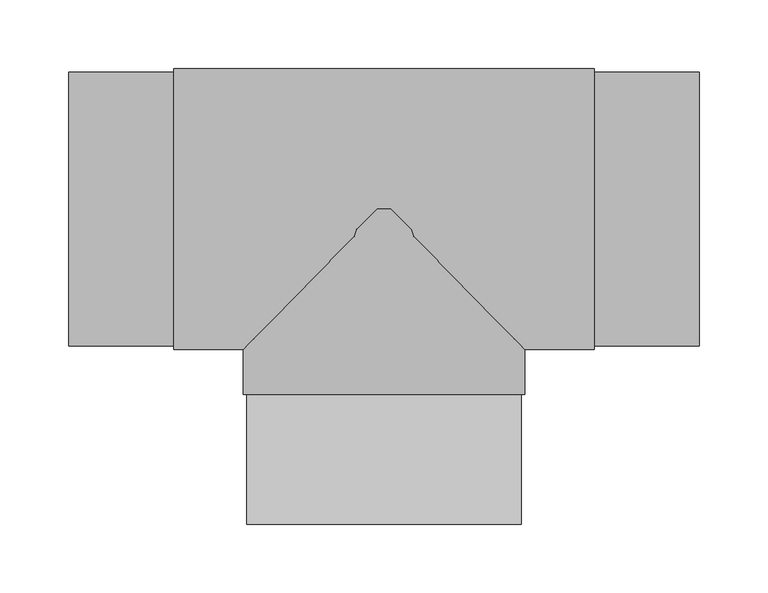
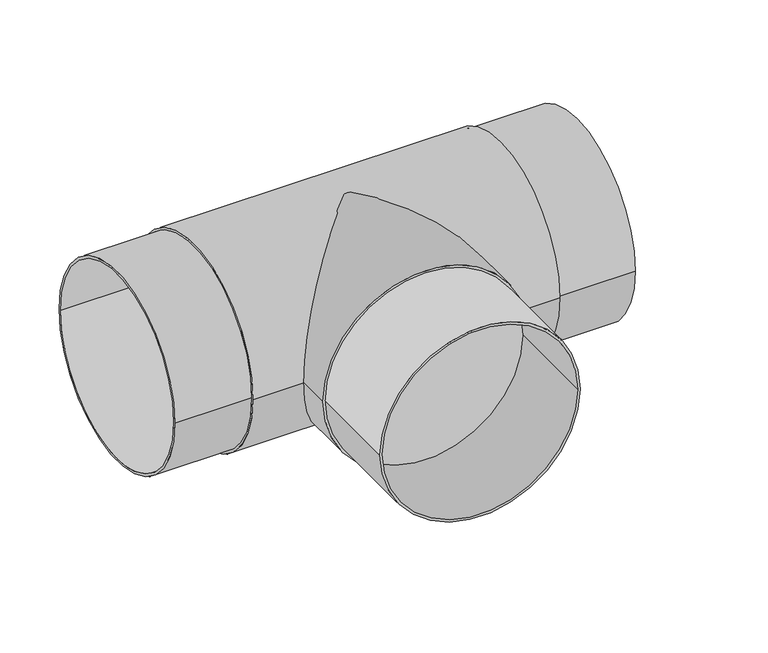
"""IFC4 building model written with IfcOpenShell, lengths in millimetres: pipe fitting geometry, EGB_VASEN_ PPR_Te a tope WXRB300_Te reducida a tope WXRB310 : Te a tope."""

from ifc_helpers import new_model, si_unit, point, frame, origin, origin_2d, place, context, project, spatial, circle_curve, trimmed, segment, composite_curve, outline, extrude, source, transform, mapped, element, save


def pipe_fitting_e492791f(model_context):
    return source(origin(), model_context, "Body", "SweptSolid", [
        extrude(outline(composite_curve([segment(trimmed(circle_curve(origin_2d(), 100.0), [point((0.0, 100.0))], [point((0.0, -100.0))], False, "CARTESIAN"), True, "CONTINUOUS"), segment(trimmed(circle_curve(origin_2d(), 100.0), [point((0.0, -100.0))], [point((0.0, 100.0))], False, "CARTESIAN"), True, "CONTINUOUS")], self_intersect=False), holes=[composite_curve([segment(trimmed(circle_curve(origin_2d(), 97.5), [point((0.0, 97.5))], [point((0.0, -97.5))], True, "CARTESIAN"), True, "CONTINUOUS"), segment(trimmed(circle_curve(origin_2d(), 97.5), [point((0.0, -97.5))], [point((0.0, 97.5))], True, "CARTESIAN"), True, "CONTINUOUS")], self_intersect=False)]), frame((0.0, -230.0, 0.0), z_axis=(0.0, 1.0, 0.0), x_axis=(0.0, 0.0, 1.0)), (0.0, 0.0, 1.0), 94.5),
        extrude(outline(composite_curve([segment(trimmed(circle_curve(origin_2d(), 102.5), [point((0.0, 102.5))], [point((0.0, -102.5))], False, "CARTESIAN"), True, "CONTINUOUS"), segment(trimmed(circle_curve(origin_2d(), 102.5), [point((0.0, -102.5))], [point((0.0, 102.5))], False, "CARTESIAN"), True, "CONTINUOUS")], self_intersect=False)), frame((0.0, -135.5, 0.0), z_axis=(0.0, 1.0, 0.0), x_axis=(0.0, 0.0, 1.0)), (0.0, 0.0, 1.0), 135.5),
        extrude(outline(composite_curve([segment(trimmed(circle_curve(origin_2d(), 102.5), [point((-102.5, 0.0))], [point((102.5, 0.0))], False, "CARTESIAN"), True, "CONTINUOUS"), segment(trimmed(circle_curve(origin_2d(), 102.5), [point((102.5, 0.0))], [point((-102.5, 0.0))], False, "CARTESIAN"), True, "CONTINUOUS")], self_intersect=False), holes=[composite_curve([segment(trimmed(circle_curve(origin_2d(), 100.0), [point((-100.0, 0.0))], [point((100.0, 0.0))], True, "CARTESIAN"), True, "CONTINUOUS"), segment(trimmed(circle_curve(origin_2d(), 100.0), [point((100.0, 0.0))], [point((-100.0, 0.0))], True, "CARTESIAN"), True, "CONTINUOUS")], self_intersect=False)]), frame((-153.3333333, 0.0, 0.0), z_axis=(1.0, 0.0, 0.0), x_axis=(0.0, 1.0, 0.0)), (0.0, 0.0, 1.0), 306.6666667),
        extrude(outline(composite_curve([segment(trimmed(circle_curve(origin_2d(), 100.0), [point((-100.0, 0.0))], [point((100.0, 0.0))], False, "CARTESIAN"), True, "CONTINUOUS"), segment(trimmed(circle_curve(origin_2d(), 100.0), [point((100.0, 0.0))], [point((-100.0, 0.0))], False, "CARTESIAN"), True, "CONTINUOUS")], self_intersect=False), holes=[composite_curve([segment(trimmed(circle_curve(origin_2d(), 97.5), [point((-97.5, 0.0))], [point((97.5, 0.0))], True, "CARTESIAN"), True, "CONTINUOUS"), segment(trimmed(circle_curve(origin_2d(), 97.5), [point((97.5, 0.0))], [point((-97.5, 0.0))], True, "CARTESIAN"), True, "CONTINUOUS")], self_intersect=False)]), frame((-230.0, 0.0, 0.0), z_axis=(1.0, 0.0, 0.0), x_axis=(0.0, 1.0, 0.0)), (0.0, 0.0, 1.0), 460.0),
    ])


if __name__ == "__main__":
    model = new_model("IFC4")
    model_context = context("Model", 3, world=origin())
    ifc_project = project(units=[si_unit("LENGTHUNIT", "METRE", prefix="MILLI")], contexts=[model_context])
    site = spatial("IfcSite", under=ifc_project)
    building = spatial("IfcBuilding", under=site)
    placement = place(None, origin())
    pipe_fitting_shape = pipe_fitting_e492791f(model_context)
    element("IfcPipeFitting", 1, ObjectType="EGB_VASEN_ PPR_Te a tope WXRB300_Te reducida a tope WXRB310 : Te a tope", at=placement, inside=building, context=model_context, shape_type="MappedRepresentation", body=[
        mapped(pipe_fitting_shape, transform((0.0, 0.0, 0.0), x_axis=(1.0, 0.0, 0.0), y_axis=(0.0, 1.0, 0.0), z_axis=(0.0, 0.0, 1.0))),
    ])
    save(model, "model.ifc")
